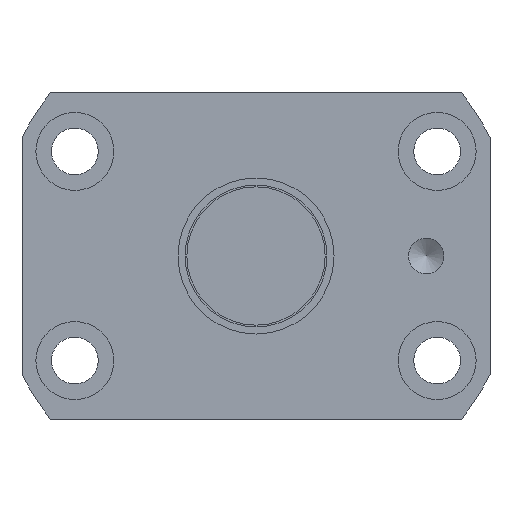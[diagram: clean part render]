
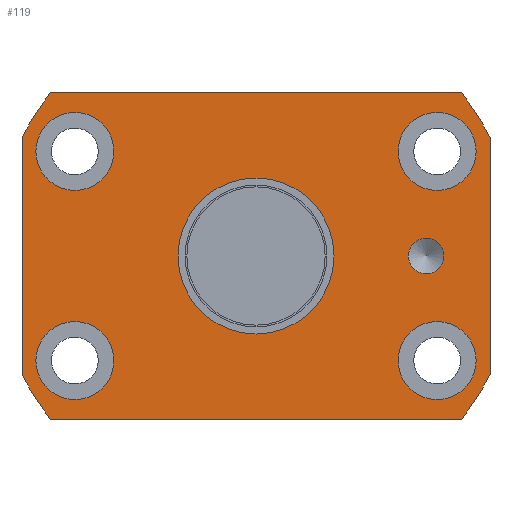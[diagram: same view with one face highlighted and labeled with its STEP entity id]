
A CAD part, left-side view. The second image highlights one B-rep face of the part: STEP entity #119.
In plain terms, the highlighted planar face has unit normal (-1, 0, 0).
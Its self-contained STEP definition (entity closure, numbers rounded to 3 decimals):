
#50 = CIRCLE ( 'NONE', #3018, 37. ) ;
#119 = ADVANCED_FACE ( 'NONE', ( #2852, #225, #243, #3084, #531, #771, #2603 ), #2092, .T. ) ;
#136 = DIRECTION ( 'NONE',  ( 1., 0., 0. ) ) ;
#144 = DIRECTION ( 'NONE',  ( -1., 0., 0. ) ) ;
#175 = ORIENTED_EDGE ( 'NONE', *, *, #3337, .F. ) ;
#225 = FACE_BOUND ( 'NONE', #2651, .T. ) ;
#236 = CARTESIAN_POINT ( 'NONE',  ( 0., -33., 23. ) ) ;
#243 = FACE_BOUND ( 'NONE', #486, .T. ) ;
#255 = DIRECTION ( 'NONE',  ( 0., 1., 0. ) ) ;
#308 = EDGE_CURVE ( 'NONE', #2944, #2621, #1503, .T. ) ;
#385 = CARTESIAN_POINT ( 'NONE',  ( 0., 33., 16.733 ) ) ;
#405 = EDGE_CURVE ( 'NONE', #2621, #1956, #740, .T. ) ;
#419 = AXIS2_PLACEMENT_3D ( 'NONE', #797, #1804, #1832 ) ;
#466 = CARTESIAN_POINT ( 'NONE',  ( 0., 28.983, 23. ) ) ;
#486 = EDGE_LOOP ( 'NONE', ( #1260 ) ) ;
#491 = CARTESIAN_POINT ( 'NONE',  ( 0., 0., 0. ) ) ;
#508 = ORIENTED_EDGE ( 'NONE', *, *, #2251, .F. ) ;
#509 = CARTESIAN_POINT ( 'NONE',  ( 0., 31.048, 14.75 ) ) ;
#525 = CARTESIAN_POINT ( 'NONE',  ( 0., -20.048, 14.75 ) ) ;
#531 = FACE_BOUND ( 'NONE', #1704, .T. ) ;
#542 = AXIS2_PLACEMENT_3D ( 'NONE', #1933, #136, #1438 ) ;
#638 = EDGE_LOOP ( 'NONE', ( #985 ) ) ;
#683 = CARTESIAN_POINT ( 'NONE',  ( 0., 33., -16.733 ) ) ;
#690 = DIRECTION ( 'NONE',  ( 0., 0., -1. ) ) ;
#705 = CIRCLE ( 'NONE', #964, 5.5 ) ;
#706 = CIRCLE ( 'NONE', #1623, 5.5 ) ;
#740 = LINE ( 'NONE', #236, #2053 ) ;
#759 = VERTEX_POINT ( 'NONE', #509 ) ;
#763 = CIRCLE ( 'NONE', #1576, 37. ) ;
#771 = FACE_OUTER_BOUND ( 'NONE', #968, .T. ) ;
#797 = CARTESIAN_POINT ( 'NONE',  ( 0., 17., 0. ) ) ;
#820 = CARTESIAN_POINT ( 'NONE',  ( 0., 31.048, -14.75 ) ) ;
#857 = CARTESIAN_POINT ( 'NONE',  ( 0., 33., -23. ) ) ;
#869 = VERTEX_POINT ( 'NONE', #1117 ) ;
#926 = LINE ( 'NONE', #2206, #1350 ) ;
#927 = VERTEX_POINT ( 'NONE', #3108 ) ;
#935 = EDGE_CURVE ( 'NONE', #2591, #2591, #3168, .T. ) ;
#948 = DIRECTION ( 'NONE',  ( 1., 0., 0. ) ) ;
#964 = AXIS2_PLACEMENT_3D ( 'NONE', #1495, #1566, #1822 ) ;
#968 = EDGE_LOOP ( 'NONE', ( #1472, #1954, #1125, #2870, #2785, #175, #1463, #2716 ) ) ;
#985 = ORIENTED_EDGE ( 'NONE', *, *, #1006, .T. ) ;
#993 = CARTESIAN_POINT ( 'NONE',  ( 0., -25.548, -14.75 ) ) ;
#1006 = EDGE_CURVE ( 'NONE', #759, #759, #2218, .T. ) ;
#1084 = ORIENTED_EDGE ( 'NONE', *, *, #3302, .T. ) ;
#1093 = EDGE_LOOP ( 'NONE', ( #1679 ) ) ;
#1117 = CARTESIAN_POINT ( 'NONE',  ( 0., -24., 2.5 ) ) ;
#1125 = ORIENTED_EDGE ( 'NONE', *, *, #405, .F. ) ;
#1210 = DIRECTION ( 'NONE',  ( 1., 0., 0. ) ) ;
#1243 = CIRCLE ( 'NONE', #2760, 37. ) ;
#1260 = ORIENTED_EDGE ( 'NONE', *, *, #1606, .T. ) ;
#1281 = DIRECTION ( 'NONE',  ( 0., 1., 0. ) ) ;
#1312 = CARTESIAN_POINT ( 'NONE',  ( 0., -33., 16.733 ) ) ;
#1340 = EDGE_CURVE ( 'NONE', #3249, #2944, #2494, .T. ) ;
#1350 = VECTOR ( 'NONE', #2002, 1000. ) ;
#1438 = DIRECTION ( 'NONE',  ( 0., 1., 0. ) ) ;
#1452 = CARTESIAN_POINT ( 'NONE',  ( 0., 0., 0. ) ) ;
#1463 = ORIENTED_EDGE ( 'NONE', *, *, #1944, .F. ) ;
#1472 = ORIENTED_EDGE ( 'NONE', *, *, #2755, .F. ) ;
#1495 = CARTESIAN_POINT ( 'NONE',  ( 0., 25.548, -14.75 ) ) ;
#1503 = CIRCLE ( 'NONE', #2424, 37. ) ;
#1566 = DIRECTION ( 'NONE',  ( 1., 0., 0. ) ) ;
#1576 = AXIS2_PLACEMENT_3D ( 'NONE', #2289, #1210, #255 ) ;
#1600 = CARTESIAN_POINT ( 'NONE',  ( 0., -20.048, -14.75 ) ) ;
#1606 = EDGE_CURVE ( 'NONE', #2844, #2844, #706, .T. ) ;
#1608 = DIRECTION ( 'NONE',  ( 0., 0., 1. ) ) ;
#1623 = AXIS2_PLACEMENT_3D ( 'NONE', #3160, #2684, #1881 ) ;
#1646 = LINE ( 'NONE', #857, #1733 ) ;
#1660 = CARTESIAN_POINT ( 'NONE',  ( 0., -24., 0. ) ) ;
#1679 = ORIENTED_EDGE ( 'NONE', *, *, #935, .T. ) ;
#1704 = EDGE_LOOP ( 'NONE', ( #1084 ) ) ;
#1722 = AXIS2_PLACEMENT_3D ( 'NONE', #2830, #2579, #2613 ) ;
#1729 = DIRECTION ( 'NONE',  ( 0., 1., 0. ) ) ;
#1733 = VECTOR ( 'NONE', #1608, 1000. ) ;
#1804 = DIRECTION ( 'NONE',  ( -1., 0., 0. ) ) ;
#1822 = DIRECTION ( 'NONE',  ( 0., 1., 0. ) ) ;
#1832 = DIRECTION ( 'NONE',  ( 0., 0., 1. ) ) ;
#1845 = AXIS2_PLACEMENT_3D ( 'NONE', #1660, #144, #2952 ) ;
#1869 = VERTEX_POINT ( 'NONE', #1600 ) ;
#1881 = DIRECTION ( 'NONE',  ( 0., 1., 0. ) ) ;
#1885 = VERTEX_POINT ( 'NONE', #820 ) ;
#1912 = CARTESIAN_POINT ( 'NONE',  ( 0., -33., -16.733 ) ) ;
#1933 = CARTESIAN_POINT ( 'NONE',  ( 0., 25.548, 14.75 ) ) ;
#1944 = EDGE_CURVE ( 'NONE', #2808, #2313, #1646, .T. ) ;
#1954 = ORIENTED_EDGE ( 'NONE', *, *, #2400, .F. ) ;
#1956 = VERTEX_POINT ( 'NONE', #1912 ) ;
#2002 = DIRECTION ( 'NONE',  ( 0., 1., 0. ) ) ;
#2053 = VECTOR ( 'NONE', #690, 1000. ) ;
#2057 = CARTESIAN_POINT ( 'NONE',  ( 0., -28.983, 23. ) ) ;
#2092 = PLANE ( 'NONE',  #419 ) ;
#2166 = VECTOR ( 'NONE', #2291, 1000. ) ;
#2182 = EDGE_LOOP ( 'NONE', ( #508 ) ) ;
#2206 = CARTESIAN_POINT ( 'NONE',  ( 0., -33., -23. ) ) ;
#2218 = CIRCLE ( 'NONE', #542, 5.5 ) ;
#2251 = EDGE_CURVE ( 'NONE', #869, #869, #2496, .T. ) ;
#2289 = CARTESIAN_POINT ( 'NONE',  ( 0., 0., 0. ) ) ;
#2291 = DIRECTION ( 'NONE',  ( 0., -1., 0. ) ) ;
#2313 = VERTEX_POINT ( 'NONE', #385 ) ;
#2400 = EDGE_CURVE ( 'NONE', #1956, #2805, #1243, .T. ) ;
#2403 = EDGE_CURVE ( 'NONE', #927, #2808, #763, .T. ) ;
#2424 = AXIS2_PLACEMENT_3D ( 'NONE', #491, #948, #3037 ) ;
#2444 = CARTESIAN_POINT ( 'NONE',  ( 0., -28.983, -23. ) ) ;
#2487 = AXIS2_PLACEMENT_3D ( 'NONE', #993, #2497, #2800 ) ;
#2494 = LINE ( 'NONE', #2729, #2166 ) ;
#2496 = CIRCLE ( 'NONE', #1845, 2.5 ) ;
#2497 = DIRECTION ( 'NONE',  ( 1., 0., 0. ) ) ;
#2501 = ORIENTED_EDGE ( 'NONE', *, *, #3252, .T. ) ;
#2579 = DIRECTION ( 'NONE',  ( 1., 0., 0. ) ) ;
#2581 = CARTESIAN_POINT ( 'NONE',  ( 0., 0., 0. ) ) ;
#2591 = VERTEX_POINT ( 'NONE', #3317 ) ;
#2603 = FACE_BOUND ( 'NONE', #1093, .T. ) ;
#2613 = DIRECTION ( 'NONE',  ( 0., 1., 0. ) ) ;
#2621 = VERTEX_POINT ( 'NONE', #1312 ) ;
#2651 = EDGE_LOOP ( 'NONE', ( #2501 ) ) ;
#2684 = DIRECTION ( 'NONE',  ( 1., 0., 0. ) ) ;
#2716 = ORIENTED_EDGE ( 'NONE', *, *, #2403, .F. ) ;
#2729 = CARTESIAN_POINT ( 'NONE',  ( 0., 33., 23. ) ) ;
#2755 = EDGE_CURVE ( 'NONE', #2805, #927, #926, .T. ) ;
#2760 = AXIS2_PLACEMENT_3D ( 'NONE', #2581, #3059, #1281 ) ;
#2785 = ORIENTED_EDGE ( 'NONE', *, *, #1340, .F. ) ;
#2800 = DIRECTION ( 'NONE',  ( 0., 1., 0. ) ) ;
#2805 = VERTEX_POINT ( 'NONE', #2444 ) ;
#2808 = VERTEX_POINT ( 'NONE', #683 ) ;
#2830 = CARTESIAN_POINT ( 'NONE',  ( 0., 0., 0. ) ) ;
#2844 = VERTEX_POINT ( 'NONE', #525 ) ;
#2852 = FACE_BOUND ( 'NONE', #2182, .T. ) ;
#2870 = ORIENTED_EDGE ( 'NONE', *, *, #308, .F. ) ;
#2944 = VERTEX_POINT ( 'NONE', #2057 ) ;
#2952 = DIRECTION ( 'NONE',  ( 0., 0., 1. ) ) ;
#3005 = DIRECTION ( 'NONE',  ( 1., 0., 0. ) ) ;
#3018 = AXIS2_PLACEMENT_3D ( 'NONE', #1452, #3005, #1729 ) ;
#3037 = DIRECTION ( 'NONE',  ( 0., 1., 0. ) ) ;
#3059 = DIRECTION ( 'NONE',  ( 1., 0., 0. ) ) ;
#3076 = CIRCLE ( 'NONE', #2487, 5.5 ) ;
#3084 = FACE_BOUND ( 'NONE', #638, .T. ) ;
#3108 = CARTESIAN_POINT ( 'NONE',  ( 0., 28.983, -23. ) ) ;
#3160 = CARTESIAN_POINT ( 'NONE',  ( 0., -25.548, 14.75 ) ) ;
#3168 = CIRCLE ( 'NONE', #1722, 11. ) ;
#3249 = VERTEX_POINT ( 'NONE', #466 ) ;
#3252 = EDGE_CURVE ( 'NONE', #1885, #1885, #705, .T. ) ;
#3302 = EDGE_CURVE ( 'NONE', #1869, #1869, #3076, .T. ) ;
#3317 = CARTESIAN_POINT ( 'NONE',  ( 0., 11., 0. ) ) ;
#3337 = EDGE_CURVE ( 'NONE', #2313, #3249, #50, .T. ) ;
